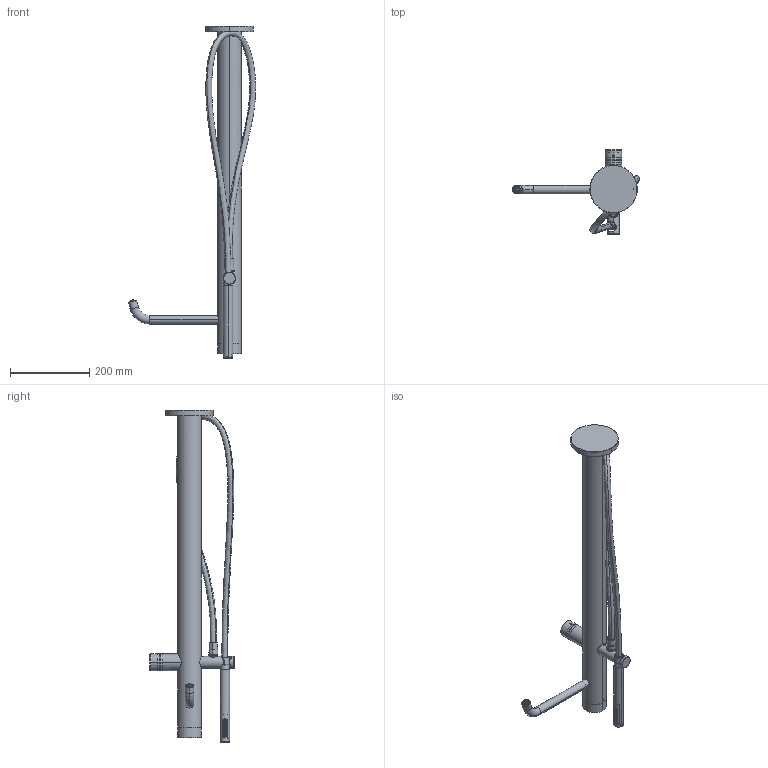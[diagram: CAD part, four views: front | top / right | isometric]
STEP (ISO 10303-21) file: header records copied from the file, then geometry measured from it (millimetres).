
FILE_DESCRIPTION((''),'2;1');
FILE_NAME('40000L580B000000_SW0001','2023-09-27T15:24:00',('matteo.follador'),(''),'CREO PARAMETRIC BY PTC INC, 2022424','CREO PARAMETRIC BY PTC INC, 2022424','');
FILE_SCHEMA(('AUTOMOTIVE_DESIGN { 1 0 10303 214 1 1 1 1 }'));
Products named in the file (1): 40000L580B000000_SW0001
Bounding box: 321.86 x 213 x 840.18 mm (x, y, z)
Volume: 2823372.5 mm3; surface area: 338117.5 mm2
Topology: 2 solids, 2 shells, 694 faces, 1718 edges, 1119 vertices
Faces by surface type: cylinder 375, plane 201, cone 73, bspline 34, torus 11
Entity records: 64399 total; most frequent: CARTESIAN_POINT 43861, ORIENTED_EDGE 3432, DIRECTION 3204, EDGE_CURVE 1716, AXIS2_PLACEMENT_3D 1240, VERTEX_POINT 1119, EDGE_LOOP 829, VECTOR 721
